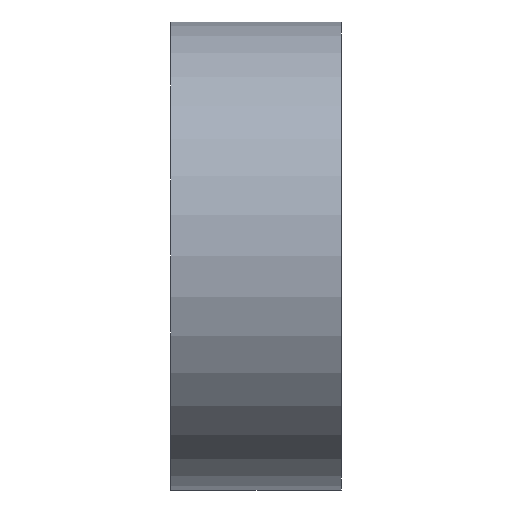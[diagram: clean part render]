
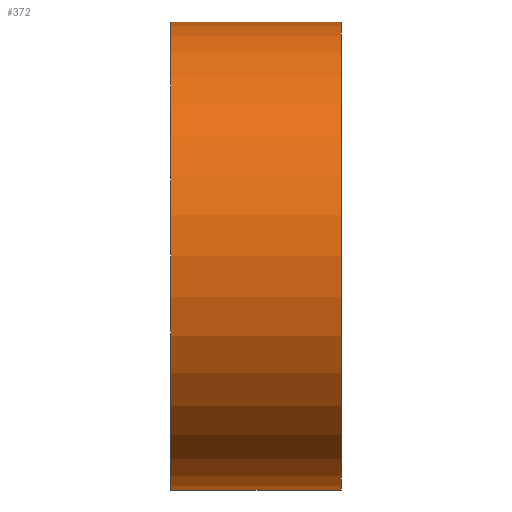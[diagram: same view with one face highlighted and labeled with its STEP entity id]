
A CAD part, left-side view. The second image highlights one B-rep face of the part: STEP entity #372.
In plain terms, the highlighted cylindrical face has radius 3.85 mm (diameter 7.7 mm), a partial arc.
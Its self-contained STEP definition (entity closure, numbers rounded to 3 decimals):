
#4 = CYLINDRICAL_SURFACE ( 'NONE', #25, 3.85 ) ;
#6 = EDGE_CURVE ( 'NONE', #149, #326, #95, .T. ) ;
#13 = EDGE_CURVE ( 'NONE', #208, #148, #253, .T. ) ;
#18 = EDGE_CURVE ( 'NONE', #149, #208, #87, .T. ) ;
#20 = VECTOR ( 'NONE', #273, 1000. ) ;
#25 = AXIS2_PLACEMENT_3D ( 'NONE', #76, #126, #83 ) ;
#30 = LINE ( 'NONE', #239, #20 ) ;
#76 = CARTESIAN_POINT ( 'NONE',  ( -3.05, 2.8, 0. ) ) ;
#83 = DIRECTION ( 'NONE',  ( 0., 0., -1. ) ) ;
#86 = VECTOR ( 'NONE', #352, 1000. ) ;
#87 = LINE ( 'NONE', #349, #86 ) ;
#95 = CIRCLE ( 'NONE', #318, 3.85 ) ;
#116 = ORIENTED_EDGE ( 'NONE', *, *, #164, .F. ) ;
#120 = FACE_OUTER_BOUND ( 'NONE', #290, .T. ) ;
#126 = DIRECTION ( 'NONE',  ( 0., -1., 0. ) ) ;
#148 = VERTEX_POINT ( 'NONE', #191 ) ;
#149 = VERTEX_POINT ( 'NONE', #200 ) ;
#164 = EDGE_CURVE ( 'NONE', #326, #148, #30, .T. ) ;
#191 = CARTESIAN_POINT ( 'NONE',  ( -3.05, 0., 3.85 ) ) ;
#200 = CARTESIAN_POINT ( 'NONE',  ( -3.05, 2.8, -3.85 ) ) ;
#208 = VERTEX_POINT ( 'NONE', #324 ) ;
#214 = CARTESIAN_POINT ( 'NONE',  ( -3.05, 2.8, 3.85 ) ) ;
#239 = CARTESIAN_POINT ( 'NONE',  ( -3.05, 2.8, 3.85 ) ) ;
#253 = CIRCLE ( 'NONE', #292, 3.85 ) ;
#267 = DIRECTION ( 'NONE',  ( 0., 1., 0. ) ) ;
#273 = DIRECTION ( 'NONE',  ( 0., -1., 0. ) ) ;
#278 = CARTESIAN_POINT ( 'NONE',  ( -3.05, 2.8, 0. ) ) ;
#290 = EDGE_LOOP ( 'NONE', ( #314, #116, #470, #377 ) ) ;
#292 = AXIS2_PLACEMENT_3D ( 'NONE', #337, #341, #342 ) ;
#314 = ORIENTED_EDGE ( 'NONE', *, *, #13, .T. ) ;
#318 = AXIS2_PLACEMENT_3D ( 'NONE', #278, #267, #335 ) ;
#324 = CARTESIAN_POINT ( 'NONE',  ( -3.05, 0., -3.85 ) ) ;
#326 = VERTEX_POINT ( 'NONE', #214 ) ;
#335 = DIRECTION ( 'NONE',  ( 0., 0., 1. ) ) ;
#337 = CARTESIAN_POINT ( 'NONE',  ( -3.05, 0., 0. ) ) ;
#341 = DIRECTION ( 'NONE',  ( 0., 1., 0. ) ) ;
#342 = DIRECTION ( 'NONE',  ( 0., 0., 1. ) ) ;
#349 = CARTESIAN_POINT ( 'NONE',  ( -3.05, 2.8, -3.85 ) ) ;
#352 = DIRECTION ( 'NONE',  ( 0., -1., 0. ) ) ;
#372 = ADVANCED_FACE ( 'NONE', ( #120 ), #4, .T. ) ;
#377 = ORIENTED_EDGE ( 'NONE', *, *, #18, .T. ) ;
#470 = ORIENTED_EDGE ( 'NONE', *, *, #6, .F. ) ;
